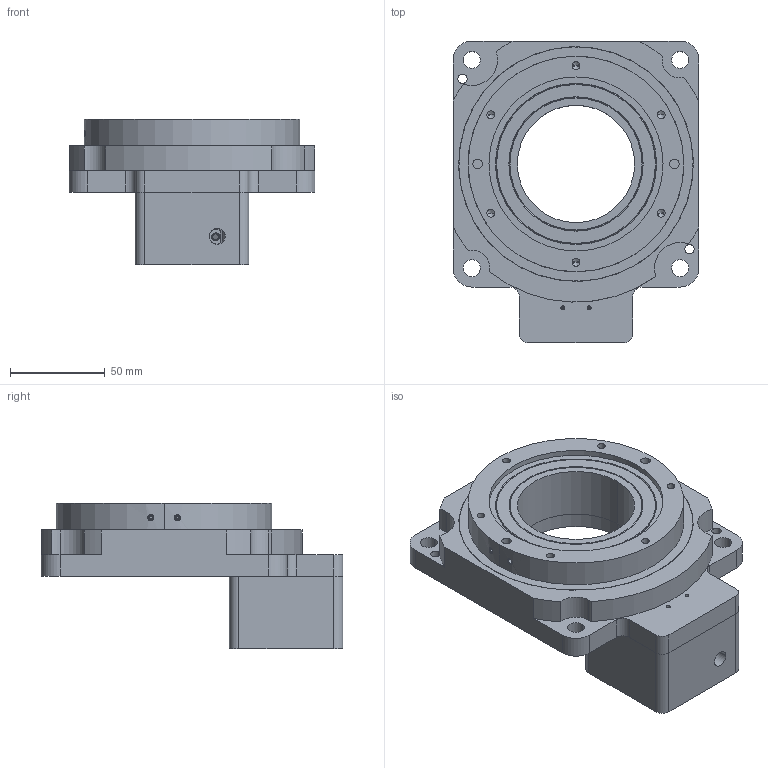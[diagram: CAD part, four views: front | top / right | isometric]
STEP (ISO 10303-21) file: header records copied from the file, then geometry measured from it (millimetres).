
FILE_DESCRIPTION (( 'STEP AP203' ), '1' );
FILE_NAME ('NDG130-12¦øªA.STEP', '2020-02-07T02:32:36', ( 'SkyUser' ), ( 'ITianKong.Com' ), 'SwSTEP 2.0', 'SolidWorks 2013', '' );
FILE_SCHEMA (( 'CONFIG_CONTROL_DESIGN' ));
Length unit declared in the file: millimetre
Products named in the file (1): NDG130-12伺服
Bounding box: 130 x 159.5 x 76.7 mm (x, y, z)
Volume: 468140.4 mm3; surface area: 136109.7 mm2
Topology: 7 solids, 7 shells, 410 faces, 1020 edges, 629 vertices
Faces by surface type: cylinder 243, plane 89, cone 74, bspline 4
Entity records: 14182 total; most frequent: CARTESIAN_POINT 4090, DIRECTION 2282, ORIENTED_EDGE 1932, EDGE_CURVE 966, AXIS2_PLACEMENT_3D 932, VERTEX_POINT 629, EDGE_LOOP 527, CIRCLE 525
